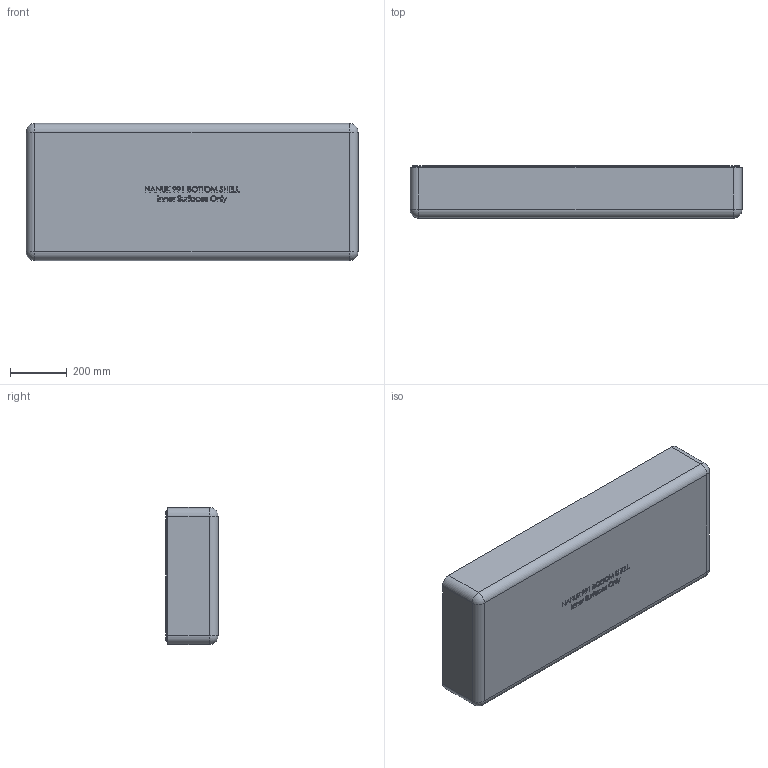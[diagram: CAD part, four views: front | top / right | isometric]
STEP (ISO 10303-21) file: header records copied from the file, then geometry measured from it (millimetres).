
FILE_DESCRIPTION (( 'STEP AP203' ), '1' );
FILE_NAME ('991_BOTTOM INNER SURFACES step.STEP', '2024-01-09T14:13:51', ( '' ), ( '' ), 'SwSTEP 2.0', 'SolidWorks 2022', '' );
FILE_SCHEMA (( 'CONFIG_CONTROL_DESIGN' ));
Length unit declared in the file: inch
Products named in the file (1): 991_BOTTOM INNER SURFACES step
Bounding box: 1168.4 x 183.62 x 482.6 mm (x, y, z)
Volume: 24082245 mm3; surface area: 2180071.3 mm2
Topology: 1 solids, 1 shells, 3142 faces, 7713 edges, 4342 vertices
Faces by surface type: bspline 1728, plane 596, cylinder 444, torus 172, cone 102, sphere 100
Entity records: 156438 total; most frequent: CARTESIAN_POINT 97151, ORIENTED_EDGE 14822, DIRECTION 8943, EDGE_CURVE 7411, VERTEX_POINT 4342, AXIS2_PLACEMENT_3D 3401, EDGE_LOOP 3215, ADVANCED_FACE 3142
